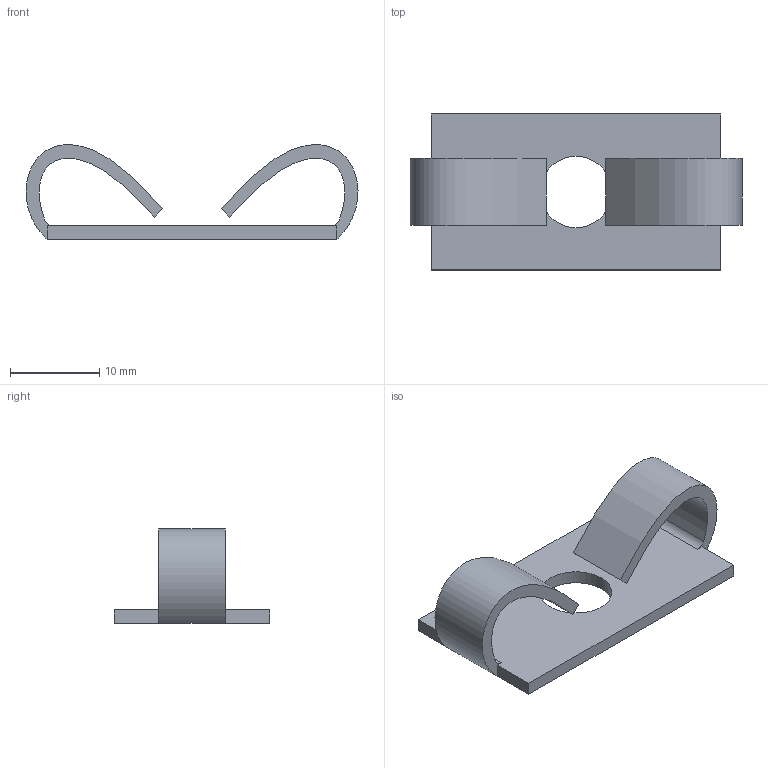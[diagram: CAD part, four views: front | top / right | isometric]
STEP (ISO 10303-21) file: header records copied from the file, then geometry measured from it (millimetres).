
FILE_DESCRIPTION (( 'STEP AP203' ), '1' );
FILE_NAME ('5083.STEP', '2017-02-10T09:03:04', ( 'RosInstal-MKM' ), ( '' ), 'SwSTEP 2.0', 'SolidWorks 2014', '' );
FILE_SCHEMA (( 'CONFIG_CONTROL_DESIGN' ));
Length unit declared in the file: millimetre
Products named in the file (1): 5083
Bounding box: 37.25 x 17.5 x 10.61 mm (x, y, z)
Volume: 1296.4 mm3; surface area: 2087.8 mm2
Topology: 1 solids, 1 shells, 22 faces, 56 edges, 36 vertices
Faces by surface type: plane 14, cylinder 4, bspline 4
Entity records: 761 total; most frequent: CARTESIAN_POINT 167, ORIENTED_EDGE 112, DIRECTION 94, EDGE_CURVE 56, LINE 40, VECTOR 40, VERTEX_POINT 36, AXIS2_PLACEMENT_3D 27
